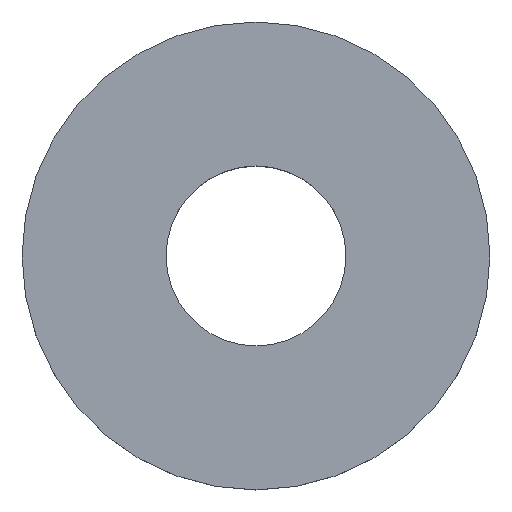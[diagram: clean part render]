
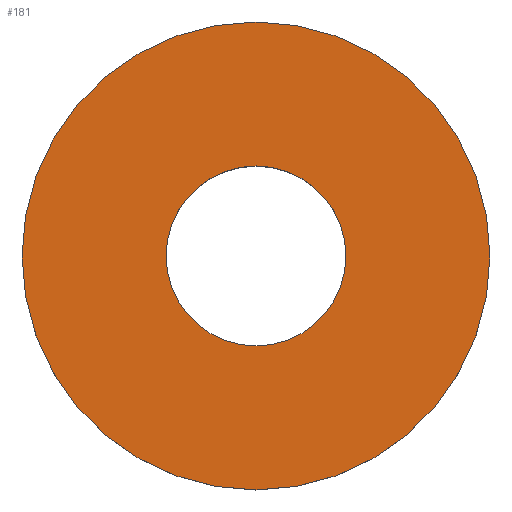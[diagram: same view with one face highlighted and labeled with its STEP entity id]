
A CAD part, top view. The second image highlights one B-rep face of the part: STEP entity #181.
In plain terms, the highlighted planar face has unit normal (0, 0, 1).
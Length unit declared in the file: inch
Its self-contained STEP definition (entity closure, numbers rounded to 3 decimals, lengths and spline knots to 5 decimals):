
#147=CARTESIAN_POINT('',(1.625,0.0,0.));
#148=VERTEX_POINT('',#147);
#149=CARTESIAN_POINT('',(0.0,0.0,0.));
#150=DIRECTION('',(0.0,0.0,1.0));
#151=DIRECTION('',(1.0,0.0,0.0));
#152=AXIS2_PLACEMENT_3D('',#149,#150,#151);
#153=CIRCLE('',#152,1.625);
#154=EDGE_CURVE('',#148,#148,#153,.T.);
#162=CARTESIAN_POINT('',(1.125,0.0,0.));
#163=DIRECTION('',(0.0,0.0,1.0));
#164=DIRECTION('',(1.0,0.0,0.0));
#165=AXIS2_PLACEMENT_3D('',#162,#163,#164);
#166=PLANE('',#165);
#167=ORIENTED_EDGE('',*,*,#154,.T.);
#168=EDGE_LOOP('',(#167));
#169=FACE_OUTER_BOUND('',#168,.T.);
#170=CARTESIAN_POINT('',(0.625,0.0,0.));
#171=VERTEX_POINT('',#170);
#172=CARTESIAN_POINT('',(0.0,0.0,0.0));
#173=DIRECTION('',(0.0,0.0,1.0));
#174=DIRECTION('',(1.0,0.0,0.0));
#175=AXIS2_PLACEMENT_3D('',#172,#173,#174);
#176=CIRCLE('',#175,0.625);
#177=EDGE_CURVE('',#171,#171,#176,.T.);
#178=ORIENTED_EDGE('',*,*,#177,.F.);
#179=EDGE_LOOP('',(#178));
#180=FACE_BOUND('',#179,.T.);
#181=ADVANCED_FACE('',(#169,#180),#166,.T.);
